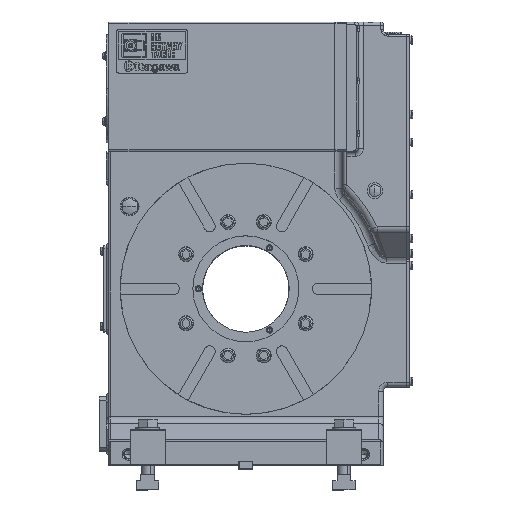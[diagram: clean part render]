
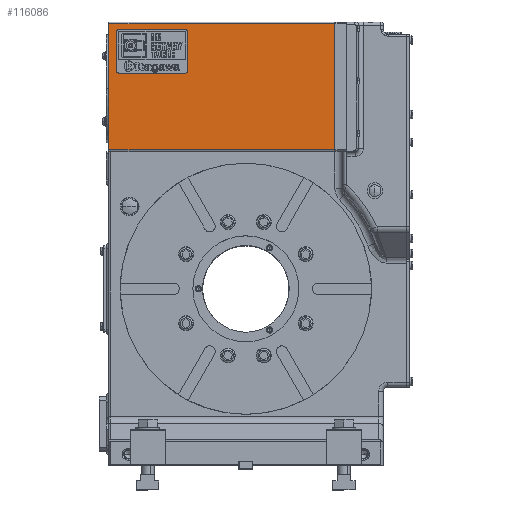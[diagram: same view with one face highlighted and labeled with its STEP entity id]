
A CAD part, top view. The second image highlights one B-rep face of the part: STEP entity #116086.
In plain terms, the highlighted planar face has unit normal (0, 0, 1).
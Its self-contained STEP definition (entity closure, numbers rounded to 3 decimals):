
#917 = VERTEX_POINT ( 'NONE', #15270 ) ;
#5022 = CARTESIAN_POINT ( 'NONE',  ( 0., 2., 0. ) ) ;
#5302 = LINE ( 'NONE', #30293, #85554 ) ;
#6696 = VERTEX_POINT ( 'NONE', #73763 ) ;
#7903 = FACE_OUTER_BOUND ( 'NONE', #113044, .T. ) ;
#15270 = CARTESIAN_POINT ( 'NONE',  ( -288., 163., 0. ) ) ;
#17371 = VERTEX_POINT ( 'NONE', #5022 ) ;
#18136 = LINE ( 'NONE', #126467, #77004 ) ;
#19151 = ORIENTED_EDGE ( 'NONE', *, *, #67015, .T. ) ;
#21170 = CARTESIAN_POINT ( 'NONE',  ( 0., 0., 0. ) ) ;
#21264 = EDGE_CURVE ( 'NONE', #6696, #917, #5302, .T. ) ;
#30293 = CARTESIAN_POINT ( 'NONE',  ( -288., 163., 0. ) ) ;
#30826 = PLANE ( 'NONE',  #32860 ) ;
#30997 = ORIENTED_EDGE ( 'NONE', *, *, #76058, .T. ) ;
#32860 = AXIS2_PLACEMENT_3D ( 'NONE', #41319, #62308, #135723 ) ;
#41319 = CARTESIAN_POINT ( 'NONE',  ( -288., 0., 0. ) ) ;
#48528 = CARTESIAN_POINT ( 'NONE',  ( -288., 0., 0. ) ) ;
#51698 = LINE ( 'NONE', #48528, #132108 ) ;
#51987 = VECTOR ( 'NONE', #94337, 1000. ) ;
#53506 = VERTEX_POINT ( 'NONE', #123528 ) ;
#56750 = ORIENTED_EDGE ( 'NONE', *, *, #21264, .T. ) ;
#62308 = DIRECTION ( 'NONE',  ( 0., 0., 1. ) ) ;
#63531 = DIRECTION ( 'NONE',  ( 1., 0., 0. ) ) ;
#67015 = EDGE_CURVE ( 'NONE', #53506, #17371, #18136, .T. ) ;
#73763 = CARTESIAN_POINT ( 'NONE',  ( 0., 163., 0. ) ) ;
#76058 = EDGE_CURVE ( 'NONE', #917, #53506, #51698, .T. ) ;
#77004 = VECTOR ( 'NONE', #63531, 1000. ) ;
#85554 = VECTOR ( 'NONE', #114509, 1000. ) ;
#94337 = DIRECTION ( 'NONE',  ( 0., -1., 0. ) ) ;
#96126 = ORIENTED_EDGE ( 'NONE', *, *, #114525, .F. ) ;
#113044 = EDGE_LOOP ( 'NONE', ( #30997, #19151, #96126, #56750 ) ) ;
#114509 = DIRECTION ( 'NONE',  ( -1., 0., 0. ) ) ;
#114525 = EDGE_CURVE ( 'NONE', #6696, #17371, #135667, .T. ) ;
#116086 = ADVANCED_FACE ( 'NONE', ( #7903 ), #30826, .T. ) ;
#121877 = DIRECTION ( 'NONE',  ( 0., -1., 0. ) ) ;
#123528 = CARTESIAN_POINT ( 'NONE',  ( -288., 2., 0. ) ) ;
#126467 = CARTESIAN_POINT ( 'NONE',  ( -288., 2., 0. ) ) ;
#132108 = VECTOR ( 'NONE', #121877, 1000. ) ;
#135667 = LINE ( 'NONE', #21170, #51987 ) ;
#135723 = DIRECTION ( 'NONE',  ( 0., -1., 0. ) ) ;
